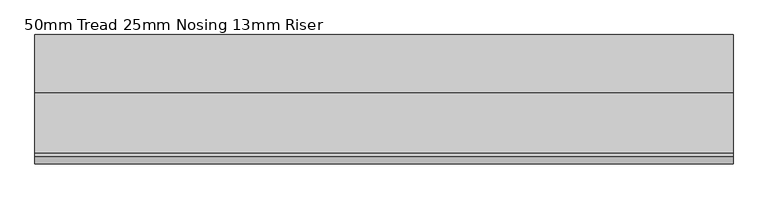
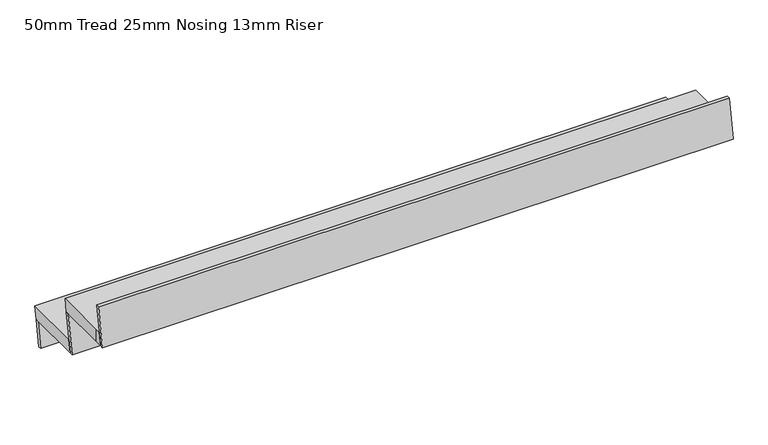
"""IFC4 building model written with IfcOpenShell, lengths in millimetres: stair flight geometry, 50mm Tread 25mm Nosing 13mm Riser."""

from ifc_helpers import new_model, si_unit, origin, place, context, project, spatial, faceted_brep, source, transform, mapped, element, save


def stair_flight_50mm_tread_25mm_nosing_13mm_riser_2ef6ebb5(model_context):
    return source(origin(), model_context, "Body", "Brep", [
        faceted_brep([(-2631.2120003, 11603.0671333, 152.4), (-2631.2120003, 11594.8650335, 102.4), (-192.8120003, 11594.8650335, 102.4), (-192.8120003, 11603.0671333, 152.4), (-192.8120003, 11831.2671333, 152.4), (-2631.2120003, 11831.2671333, 152.4), (-2631.2120003, 11823.0650335, 102.4), (-192.8120003, 11823.0650335, 102.4)], [[[0, 1, 2, 3]], [[3, 4, 5, 0]], [[2, 1, 6, 7]], [[4, 3, 2, 7]], [[0, 5, 6, 1]], [[5, 4, 7, 6]]]),
        faceted_brep([(-2631.2120003, 11823.0650335, 102.4), (-2631.2120003, 11806.2671333, 0.0), (-2631.2120003, 11793.6000637, 0.0), (-2631.2120003, 11810.3979639, 102.4), (-192.8120003, 11823.0650335, 102.4), (-192.8120003, 11810.3979639, 102.4), (-192.8120003, 11793.6000637, 0.0), (-192.8120003, 11806.2671333, 0.0)], [[[0, 1, 2, 3]], [[4, 5, 6, 7]], [[1, 0, 4, 7]], [[2, 1, 7, 6]], [[3, 2, 6, 5]], [[0, 3, 5, 4]]]),
        faceted_brep([(-2631.2120003, 11619.8650335, 254.8), (-2631.2120003, 11594.8650335, 102.4), (-2631.2120003, 11582.1979639, 102.4), (-2631.2120003, 11607.1979639, 254.8), (-192.8120003, 11619.8650335, 254.8), (-192.8120003, 11607.1979639, 254.8), (-192.8120003, 11582.1979639, 102.4), (-192.8120003, 11594.8650335, 102.4)], [[[0, 1, 2, 3]], [[4, 5, 6, 7]], [[1, 0, 4, 7]], [[2, 1, 7, 6]], [[3, 2, 6, 5]], [[0, 3, 5, 4]]]),
        faceted_brep([(-192.8120003, 11399.8671333, 304.8), (-192.8120003, 11424.8671333, 304.8), (-192.8120003, 11628.0671333, 304.8), (-2631.2120003, 11628.0671333, 304.8), (-2631.2120003, 11424.8671333, 304.8), (-2631.2120003, 11399.8671333, 304.8), (-192.8120003, 11391.6650335, 254.8), (-2631.2120003, 11391.6650335, 254.8), (-2631.2120003, 11424.8671333, 254.8), (-2631.2120003, 11619.8650335, 254.8), (-192.8120003, 11619.8650335, 254.8), (-192.8120003, 11424.8671333, 254.8)], [[[0, 1, 2, 3, 4, 5]], [[6, 7, 8, 9, 10, 11]], [[1, 0, 6, 11]], [[4, 3, 9, 8]], [[5, 7, 6, 0]], [[3, 2, 10, 9]], [[2, 1, 11, 10]], [[5, 4, 8, 7]]]),
        faceted_brep([(-2631.2120003, 11416.6650335, 407.2), (-2631.2120003, 11391.6650335, 254.8), (-2631.2120003, 11378.9979639, 254.8), (-2631.2120003, 11403.9979639, 407.2), (-192.8120003, 11416.6650335, 407.2), (-192.8120003, 11403.9979639, 407.2), (-192.8120003, 11378.9979639, 254.8), (-192.8120003, 11391.6650335, 254.8)], [[[0, 1, 2, 3]], [[4, 5, 6, 7]], [[1, 0, 4, 7]], [[2, 1, 7, 6]], [[3, 2, 6, 5]], [[0, 3, 5, 4]]]),
    ])


if __name__ == "__main__":
    model = new_model("IFC4")
    model_context = context("Model", 3, world=origin())
    ifc_project = project(units=[si_unit("LENGTHUNIT", "METRE", prefix="MILLI")], contexts=[model_context])
    site = spatial("IfcSite", under=ifc_project)
    building = spatial("IfcBuilding", under=site)
    placement = place(None, origin())
    stair_flight_50mm_tread_25mm_nosing_13mm_riser_shape = stair_flight_50mm_tread_25mm_nosing_13mm_riser_2ef6ebb5(model_context)
    element("IfcStairFlight", 1, ObjectType="50mm Tread 25mm Nosing 13mm Riser", at=placement, inside=building, context=model_context, shape_type="MappedRepresentation", body=[
        mapped(stair_flight_50mm_tread_25mm_nosing_13mm_riser_shape, transform((0.0, 0.0, 0.0), x_axis=(1.0, 0.0, 0.0), y_axis=(0.0, 1.0, 0.0), z_axis=(0.0, 0.0, 1.0))),
    ])
    save(model, "model.ifc")
